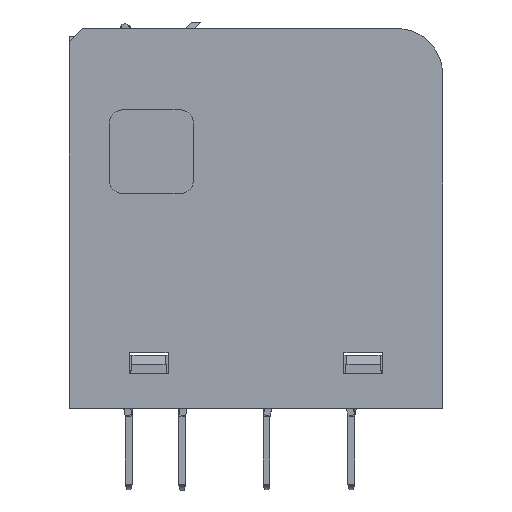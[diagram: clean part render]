
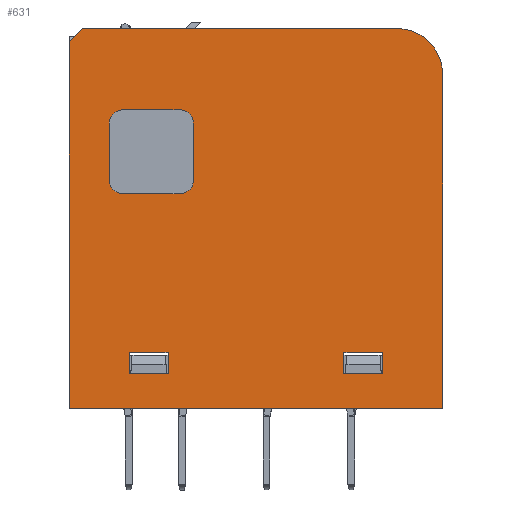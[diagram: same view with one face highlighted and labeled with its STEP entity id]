
A CAD part, top view. The second image highlights one B-rep face of the part: STEP entity #631.
In plain terms, the highlighted planar face has unit normal (0, 0, 1).
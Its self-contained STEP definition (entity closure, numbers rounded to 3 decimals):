
#631=ADVANCED_FACE('',(#7927,#7929,#7931,#7933),#7935,.T.);
#7927=FACE_BOUND('',#7928,.T.);
#7928=EDGE_LOOP('',(#13896,#13897,#13898,#13899,#13900,#13901));
#7929=FACE_BOUND('',#7930,.T.);
#7930=EDGE_LOOP('',(#13902,#13903,#13904,#13905,#13906,#13907,#13908,#13909));
#7931=FACE_BOUND('',#7932,.T.);
#7932=EDGE_LOOP('',(#13910,#13911,#13912,#13913));
#7933=FACE_BOUND('',#7934,.T.);
#7934=EDGE_LOOP('',(#13914,#13915,#13916,#13917));
#7935=PLANE('',#7936);
#7936=AXIS2_PLACEMENT_3D('',#7937,#7938,#7939);
#7937=CARTESIAN_POINT('',(0.,14.4,11.25));
#7938=DIRECTION('',(0.,0.,1.));
#7939=DIRECTION('',(0.,-1.,0.));
#13896=ORIENTED_EDGE('',*,*,#18039,.F.);
#13897=ORIENTED_EDGE('',*,*,#18040,.T.);
#13898=ORIENTED_EDGE('',*,*,#18041,.T.);
#13899=ORIENTED_EDGE('',*,*,#18042,.T.);
#13900=ORIENTED_EDGE('',*,*,#18043,.T.);
#13901=ORIENTED_EDGE('',*,*,#18044,.T.);
#13902=ORIENTED_EDGE('',*,*,#18045,.T.);
#13903=ORIENTED_EDGE('',*,*,#18046,.T.);
#13904=ORIENTED_EDGE('',*,*,#18047,.T.);
#13905=ORIENTED_EDGE('',*,*,#18048,.T.);
#13906=ORIENTED_EDGE('',*,*,#18049,.T.);
#13907=ORIENTED_EDGE('',*,*,#18050,.T.);
#13908=ORIENTED_EDGE('',*,*,#18051,.T.);
#13909=ORIENTED_EDGE('',*,*,#18052,.T.);
#13910=ORIENTED_EDGE('',*,*,#18053,.T.);
#13911=ORIENTED_EDGE('',*,*,#17809,.T.);
#13912=ORIENTED_EDGE('',*,*,#17781,.T.);
#13913=ORIENTED_EDGE('',*,*,#17878,.T.);
#13914=ORIENTED_EDGE('',*,*,#18054,.T.);
#13915=ORIENTED_EDGE('',*,*,#17823,.T.);
#13916=ORIENTED_EDGE('',*,*,#17773,.T.);
#13917=ORIENTED_EDGE('',*,*,#17818,.T.);
#17773=EDGE_CURVE('',#19958,#19956,#19959,.F.);
#17781=EDGE_CURVE('',#19974,#19972,#19975,.F.);
#17809=EDGE_CURVE('',#20024,#19974,#20025,.F.);
#17818=EDGE_CURVE('',#19956,#20038,#20040,.F.);
#17823=EDGE_CURVE('',#20048,#19958,#20049,.F.);
#17878=EDGE_CURVE('',#19972,#20145,#20147,.F.);
#18039=EDGE_CURVE('',#20408,#20409,#20410,.F.);
#18040=EDGE_CURVE('',#20408,#20411,#20412,.T.);
#18041=EDGE_CURVE('',#20411,#20413,#20414,.T.);
#18042=EDGE_CURVE('',#20413,#20415,#20416,.T.);
#18043=EDGE_CURVE('',#20415,#20417,#20418,.T.);
#18044=EDGE_CURVE('',#20417,#20409,#20419,.T.);
#18045=EDGE_CURVE('',#20420,#20421,#20422,.F.);
#18046=EDGE_CURVE('',#20421,#20423,#20424,.F.);
#18047=EDGE_CURVE('',#20423,#20425,#20426,.F.);
#18048=EDGE_CURVE('',#20425,#20427,#20428,.F.);
#18049=EDGE_CURVE('',#20427,#20429,#20430,.F.);
#18050=EDGE_CURVE('',#20429,#20431,#20432,.F.);
#18051=EDGE_CURVE('',#20431,#20433,#20434,.F.);
#18052=EDGE_CURVE('',#20433,#20420,#20435,.F.);
#18053=EDGE_CURVE('',#20145,#20024,#20436,.F.);
#18054=EDGE_CURVE('',#20038,#20048,#20437,.F.);
#19956=VERTEX_POINT('',#23529);
#19958=VERTEX_POINT('',#23533);
#19959=LINE('',#23534,#23535);
#19972=VERTEX_POINT('',#23561);
#19974=VERTEX_POINT('',#23565);
#19975=LINE('',#23566,#23567);
#20024=VERTEX_POINT('',#23671);
#20025=LINE('',#23672,#23673);
#20038=VERTEX_POINT('',#23701);
#20040=LINE('',#23705,#23706);
#20048=VERTEX_POINT('',#23723);
#20049=LINE('',#23724,#23725);
#20145=VERTEX_POINT('',#23930);
#20147=LINE('',#23934,#23935);
#20408=VERTEX_POINT('',#24546);
#20409=VERTEX_POINT('',#24547);
#20410=LINE('',#24548,#24549);
#20411=VERTEX_POINT('',#24551);
#20412=LINE('',#24552,#24553);
#20413=VERTEX_POINT('',#24555);
#20414=LINE('',#24556,#24557);
#20415=VERTEX_POINT('',#24559);
#20416=LINE('',#24560,#24561);
#20417=VERTEX_POINT('',#24563);
#20418=CIRCLE('',#24564,3.4);
#20419=LINE('',#24568,#24569);
#20420=VERTEX_POINT('',#24571);
#20421=VERTEX_POINT('',#24572);
#20422=CIRCLE('',#24573,1.);
#20423=VERTEX_POINT('',#24577);
#20424=LINE('',#24578,#24579);
#20425=VERTEX_POINT('',#24581);
#20426=CIRCLE('',#24582,1.);
#20427=VERTEX_POINT('',#24586);
#20428=LINE('',#24587,#24588);
#20429=VERTEX_POINT('',#24590);
#20430=CIRCLE('',#24591,1.);
#20431=VERTEX_POINT('',#24595);
#20432=LINE('',#24596,#24597);
#20433=VERTEX_POINT('',#24599);
#20434=CIRCLE('',#24600,1.);
#20435=LINE('',#24604,#24605);
#20436=LINE('',#24607,#24608);
#20437=LINE('',#24610,#24611);
#23529=CARTESIAN_POINT('',(6.6,2.6,11.25));
#23533=CARTESIAN_POINT('',(9.5,2.6,11.25));
#23534=CARTESIAN_POINT('',(6.6,2.6,11.25));
#23535=VECTOR('',#23536,1.);
#23536=DIRECTION('',(1.,0.,0.));
#23561=CARTESIAN_POINT('',(-9.5,2.6,11.25));
#23565=CARTESIAN_POINT('',(-6.6,2.6,11.25));
#23566=CARTESIAN_POINT('',(-9.5,2.6,11.25));
#23567=VECTOR('',#23568,1.);
#23568=DIRECTION('',(1.,0.,0.));
#23671=CARTESIAN_POINT('',(-6.6,4.2,11.25));
#23672=CARTESIAN_POINT('',(-6.6,2.6,11.25));
#23673=VECTOR('',#23674,1.);
#23674=DIRECTION('',(0.,1.,0.));
#23701=CARTESIAN_POINT('',(6.6,4.2,11.25));
#23705=CARTESIAN_POINT('',(6.6,4.2,11.25));
#23706=VECTOR('',#23707,1.);
#23707=DIRECTION('',(0.,-1.,0.));
#23723=CARTESIAN_POINT('',(9.5,4.2,11.25));
#23724=CARTESIAN_POINT('',(9.5,2.6,11.25));
#23725=VECTOR('',#23726,1.);
#23726=DIRECTION('',(0.,1.,0.));
#23930=CARTESIAN_POINT('',(-9.5,4.2,11.25));
#23934=CARTESIAN_POINT('',(-9.5,4.2,11.25));
#23935=VECTOR('',#23936,1.);
#23936=DIRECTION('',(0.,-1.,0.));
#24546=CARTESIAN_POINT('',(-14.,27.5,11.25));
#24547=CARTESIAN_POINT('',(-13.,28.5,11.25));
#24548=CARTESIAN_POINT('',(-13.,28.5,11.25));
#24549=VECTOR('',#24550,1.);
#24550=DIRECTION('',(-0.707,-0.707,0.));
#24551=CARTESIAN_POINT('',(-14.,0.,11.25));
#24552=CARTESIAN_POINT('',(-14.,27.5,11.25));
#24553=VECTOR('',#24554,1.);
#24554=DIRECTION('',(0.,-1.,0.));
#24555=CARTESIAN_POINT('',(14.,0.,11.25));
#24556=CARTESIAN_POINT('',(-14.,0.,11.25));
#24557=VECTOR('',#24558,1.);
#24558=DIRECTION('',(1.,0.,0.));
#24559=CARTESIAN_POINT('',(14.,25.1,11.25));
#24560=CARTESIAN_POINT('',(14.,0.,11.25));
#24561=VECTOR('',#24562,1.);
#24562=DIRECTION('',(0.,1.,0.));
#24563=CARTESIAN_POINT('',(10.6,28.5,11.25));
#24564=AXIS2_PLACEMENT_3D('',#24565,#24566,#24567);
#24565=CARTESIAN_POINT('',(10.6,25.1,11.25));
#24566=DIRECTION('',(0.,0.,1.));
#24567=DIRECTION('',(1.,0.,0.));
#24568=CARTESIAN_POINT('',(10.6,28.5,11.25));
#24569=VECTOR('',#24570,1.);
#24570=DIRECTION('',(-1.,0.,0.));
#24571=CARTESIAN_POINT('',(-11.,21.4,11.25));
#24572=CARTESIAN_POINT('',(-10.,22.4,11.25));
#24573=AXIS2_PLACEMENT_3D('',#24574,#24575,#24576);
#24574=CARTESIAN_POINT('',(-10.,21.4,11.25));
#24575=DIRECTION('',(0.,0.,1.));
#24576=DIRECTION('',(0.,1.,0.));
#24577=CARTESIAN_POINT('',(-5.7,22.4,11.25));
#24578=CARTESIAN_POINT('',(-5.7,22.4,11.25));
#24579=VECTOR('',#24580,1.);
#24580=DIRECTION('',(-1.,0.,0.));
#24581=CARTESIAN_POINT('',(-4.7,21.4,11.25));
#24582=AXIS2_PLACEMENT_3D('',#24583,#24584,#24585);
#24583=CARTESIAN_POINT('',(-5.7,21.4,11.25));
#24584=DIRECTION('',(0.,0.,1.));
#24585=DIRECTION('',(1.,0.,0.));
#24586=CARTESIAN_POINT('',(-4.7,17.1,11.25));
#24587=CARTESIAN_POINT('',(-4.7,17.1,11.25));
#24588=VECTOR('',#24589,1.);
#24589=DIRECTION('',(0.,1.,0.));
#24590=CARTESIAN_POINT('',(-5.7,16.1,11.25));
#24591=AXIS2_PLACEMENT_3D('',#24592,#24593,#24594);
#24592=CARTESIAN_POINT('',(-5.7,17.1,11.25));
#24593=DIRECTION('',(0.,0.,1.));
#24594=DIRECTION('',(0.,-1.,0.));
#24595=CARTESIAN_POINT('',(-10.,16.1,11.25));
#24596=CARTESIAN_POINT('',(-10.,16.1,11.25));
#24597=VECTOR('',#24598,1.);
#24598=DIRECTION('',(1.,0.,0.));
#24599=CARTESIAN_POINT('',(-11.,17.1,11.25));
#24600=AXIS2_PLACEMENT_3D('',#24601,#24602,#24603);
#24601=CARTESIAN_POINT('',(-10.,17.1,11.25));
#24602=DIRECTION('',(0.,0.,1.));
#24603=DIRECTION('',(-1.,0.,0.));
#24604=CARTESIAN_POINT('',(-11.,21.4,11.25));
#24605=VECTOR('',#24606,1.);
#24606=DIRECTION('',(0.,-1.,0.));
#24607=CARTESIAN_POINT('',(-6.6,4.2,11.25));
#24608=VECTOR('',#24609,1.);
#24609=DIRECTION('',(-1.,0.,0.));
#24610=CARTESIAN_POINT('',(9.5,4.2,11.25));
#24611=VECTOR('',#24612,1.);
#24612=DIRECTION('',(-1.,0.,0.));
